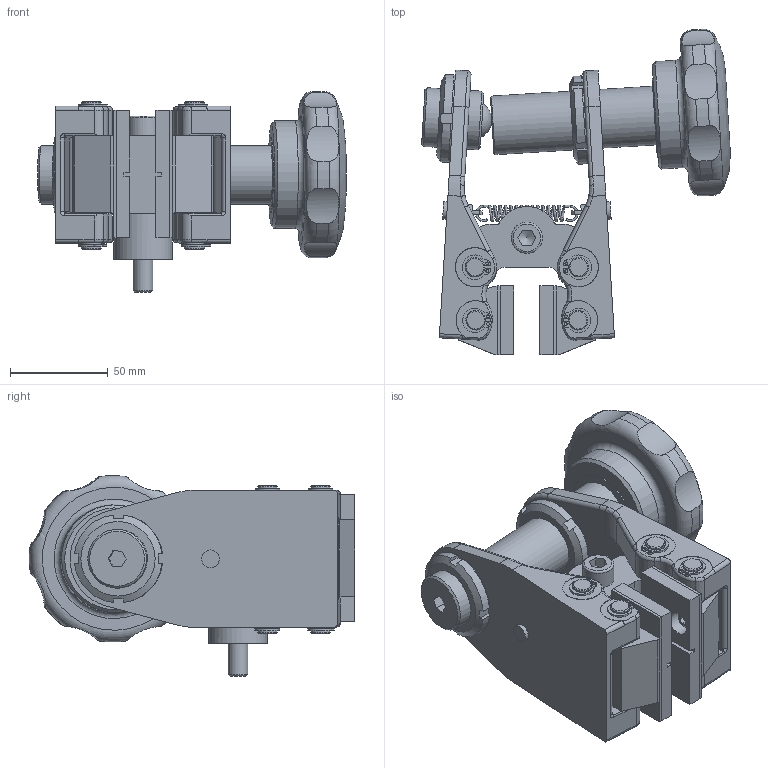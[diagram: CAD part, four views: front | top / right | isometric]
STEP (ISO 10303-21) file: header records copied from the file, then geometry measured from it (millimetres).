
FILE_DESCRIPTION(/* description */ ('','CAx-IF Rec.Pracs.---Representation and Presentation of Product Manufacturing Information (PMI)---4.0---2014-10-13'),/* implementation_level */ '2;1');
FILE_NAME(/* name */ 'X:\INVENTOR\DISEGNI\19_Pinze\STEP x Sito\19_06_000_03 PMB000_12,7.stp',/* time_stamp */ '2018-01-31T16:11:37+01:00',/* author */ ('stefano'),/* organization */ (''),/* preprocessor_version */ 'ST-DEVELOPER v17',/* originating_system */ 'Autodesk Inventor 2018',/* authorisation */ '');
FILE_SCHEMA (('AP242_MANAGED_MODEL_BASED_3D_ENGINEERING_MIM_LF { 1 0 10303 442 1 1 4 }'));
Length unit declared in the file: millimetre
Products named in the file (1): 19_06_000_03 PMB000_12,7_Substitute_2
Bounding box: 157.61 x 166.11 x 102.44 mm (x, y, z)
Volume: 541205.5 mm3; surface area: 125059.2 mm2
Topology: 5 solids, 5 shells, 643 faces, 1726 edges, 1126 vertices
Faces by surface type: plane 308, cylinder 219, torus 64, cone 31, bspline 18, sphere 3
Full cylindrical faces by diameter (mm): 1.2 x2, 1.5 x16, 2.5 x2, 7.4 x2, 7.5 x2, 9 x2, 9.5 x8, 10 x19, 10.1 x1, 10.5 x4, 12 x4, 16 x1, 22 x1, 22.3 x1, 28.4 x1, 30 x5, 31 x1, 38 x2, 55 x1
Entity records: 23867 total; most frequent: CARTESIAN_POINT 7021, DIRECTION 3559, ORIENTED_EDGE 3416, EDGE_CURVE 1708, AXIS2_PLACEMENT_3D 1381, VERTEX_POINT 1126, LINE 797, VECTOR 797
